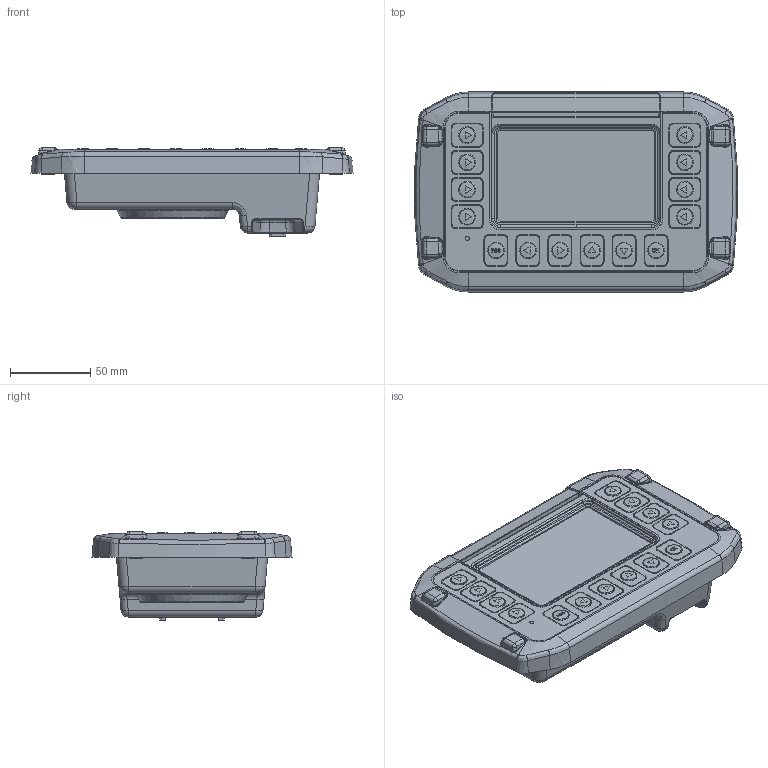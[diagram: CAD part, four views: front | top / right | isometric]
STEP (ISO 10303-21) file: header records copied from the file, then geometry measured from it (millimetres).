
FILE_DESCRIPTION (( 'STEP AP214' ), '1' );
FILE_NAME ('M840 Block Model.STEP', '2017-09-06T08:12:52', ( '' ), ( '' ), 'SwSTEP 2.0', 'SolidWorks 2017', '' );
FILE_SCHEMA (( 'AUTOMOTIVE_DESIGN' ));
Length unit declared in the file: millimetre
Products named in the file (1): M840 Block Model
Bounding box: 201.41 x 125 x 55.51 mm (x, y, z)
Volume: 709662.4 mm3; surface area: 72380.2 mm2
Topology: 1 solids, 1 shells, 643 faces, 1845 edges, 1294 vertices
Faces by surface type: plane 216, bspline 196, cylinder 163, cone 44, torus 22, sphere 2
Full cylindrical faces by diameter (mm): 6.5 x4, 10 x2, 10.4 x14
Entity records: 38705 total; most frequent: CARTESIAN_POINT 23241, ORIENTED_EDGE 3538, DIRECTION 2530, EDGE_CURVE 1769, VERTEX_POINT 1272, AXIS2_PLACEMENT_3D 932, EDGE_LOOP 787, FACE_OUTER_BOUND 685
